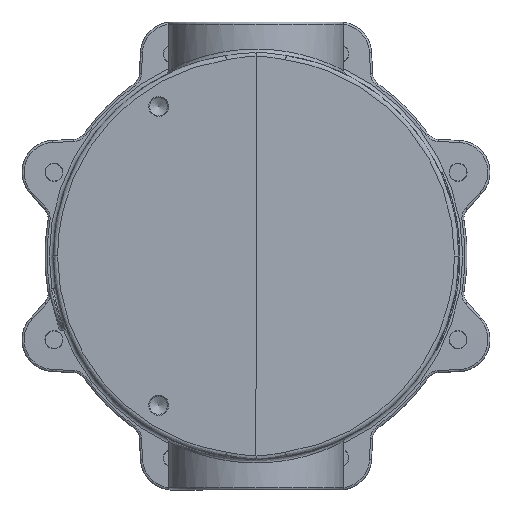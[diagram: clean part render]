
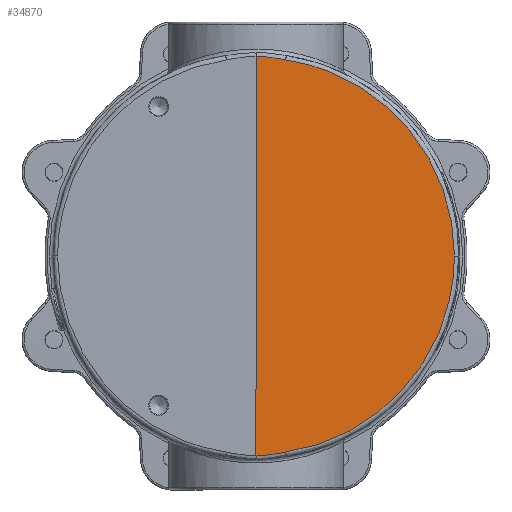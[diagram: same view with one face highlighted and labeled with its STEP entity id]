
A CAD part, front view. The second image highlights one B-rep face of the part: STEP entity #34870.
In plain terms, the highlighted planar face has unit normal (0.018, -1, 0).
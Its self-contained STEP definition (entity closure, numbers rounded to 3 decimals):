
#64=PLANE('',#37277);
#1166=(
BOUNDED_CURVE()
B_SPLINE_CURVE(3,(#50473,#50474,#50475,#50476,#50477,#50478,#50479,#50480,
#50481,#50482,#50483,#50484,#50485,#50486,#50487,#50488,#50489,#50490),
 .UNSPECIFIED.,.F.,.F.)
B_SPLINE_CURVE_WITH_KNOTS((4,2,2,2,2,2,2,2,4),(4.862,5.04,
5.217,5.395,5.573,5.75,5.928,
6.106,6.283),.UNSPECIFIED.)
CURVE()
GEOMETRIC_REPRESENTATION_ITEM()
RATIONAL_B_SPLINE_CURVE((1.,1.,1.,1.,1.,1.,1.,1.,1.,1.,1.,1.,1.,1.,1.,1.,
1.,1.))
REPRESENTATION_ITEM('')
);
#1169=(
BOUNDED_CURVE()
B_SPLINE_CURVE(3,(#58160,#58161,#58162,#58163,#58164,#58165,#58166,#58167,
#58168,#58169,#58170,#58171,#58172,#58173,#58174,#58175,#58176,#58177),
 .UNSPECIFIED.,.F.,.F.)
B_SPLINE_CURVE_WITH_KNOTS((4,2,2,2,2,2,2,2,4),(0.,0.178,0.355,
0.533,0.711,0.888,1.066,
1.244,1.421),.UNSPECIFIED.)
CURVE()
GEOMETRIC_REPRESENTATION_ITEM()
RATIONAL_B_SPLINE_CURVE((1.,1.,1.,1.,1.,1.,1.,1.,1.,1.,1.,1.,1.,1.,1.,1.,
1.,1.))
REPRESENTATION_ITEM('')
);
#3745=FACE_OUTER_BOUND('',#5844,.T.);
#5844=EDGE_LOOP('',(#24335,#24336,#24337,#24338,#24339));
#8108=LINE('',#58133,#11009);
#11009=VECTOR('',#41043,39.37);
#14027=B_SPLINE_CURVE_WITH_KNOTS('',3,(#58134,#58135,#58136,#58137,#58138,
#58139,#58140,#58141,#58142,#58143,#58144,#58145,#58146,#58147,#58148,#58149,
#58150,#58151,#58152,#58153,#58154,#58155,#58156,#58157,#58158),
 .UNSPECIFIED.,.F.,.F.,(4,3,3,3,3,3,3,3,4),(0.,0.004,
0.004,0.008,0.009,0.009,
0.013,0.013,0.018),.UNSPECIFIED.);
#14028=B_SPLINE_CURVE_WITH_KNOTS('',3,(#58178,#58179,#58180,#58181,#58182,
#58183,#58184,#58185,#58186,#58187,#58188,#58189,#58190,#58191,#58192,#58193,
#58194,#58195,#58196,#58197,#58198,#58199,#58200,#58201,#58202),
 .UNSPECIFIED.,.F.,.F.,(4,3,3,3,3,3,3,3,4),(0.,0.004,0.004,
0.009,0.009,0.013,0.013,
0.013,0.018),.UNSPECIFIED.);
#14526=VERTEX_POINT('',#50470);
#14527=VERTEX_POINT('',#50472);
#15080=VERTEX_POINT('',#58131);
#15081=VERTEX_POINT('',#58132);
#15082=VERTEX_POINT('',#58159);
#18059=EDGE_CURVE('',#14527,#14526,#1166,.T.);
#18696=EDGE_CURVE('',#15080,#15081,#8108,.T.);
#18697=EDGE_CURVE('',#15081,#14527,#14027,.T.);
#18698=EDGE_CURVE('',#14526,#15082,#1169,.T.);
#18699=EDGE_CURVE('',#15082,#15080,#14028,.T.);
#24335=ORIENTED_EDGE('',*,*,#18696,.T.);
#24336=ORIENTED_EDGE('',*,*,#18697,.T.);
#24337=ORIENTED_EDGE('',*,*,#18059,.T.);
#24338=ORIENTED_EDGE('',*,*,#18698,.T.);
#24339=ORIENTED_EDGE('',*,*,#18699,.T.);
#34870=ADVANCED_FACE('',(#3745),#64,.T.);
#37277=AXIS2_PLACEMENT_3D('',#58130,#41041,#41042);
#41041=DIRECTION('center_axis',(0.017,-1.,0.));
#41042=DIRECTION('ref_axis',(1.,0.017,0.));
#41043=DIRECTION('',(0.,0.,-1.));
#50470=CARTESIAN_POINT('',(4.652,0.081,0.));
#50472=CARTESIAN_POINT('',(0.695,0.012,-4.598));
#50473=CARTESIAN_POINT('Ctrl Pts',(0.695,0.012,
-4.598));
#50474=CARTESIAN_POINT('Ctrl Pts',(0.967,0.017,
-4.557));
#50475=CARTESIAN_POINT('Ctrl Pts',(1.236,0.022,-4.492));
#50476=CARTESIAN_POINT('Ctrl Pts',(1.757,0.031,
-4.315));
#50477=CARTESIAN_POINT('Ctrl Pts',(2.01,0.035,
-4.203));
#50478=CARTESIAN_POINT('Ctrl Pts',(2.492,0.043,
-3.937));
#50479=CARTESIAN_POINT('Ctrl Pts',(2.721,0.047,
-3.782));
#50480=CARTESIAN_POINT('Ctrl Pts',(3.148,0.055,
-3.435));
#50481=CARTESIAN_POINT('Ctrl Pts',(3.347,0.058,
-3.242));
#50482=CARTESIAN_POINT('Ctrl Pts',(3.706,0.065,
-2.824));
#50483=CARTESIAN_POINT('Ctrl Pts',(3.867,0.067,-2.6));
#50484=CARTESIAN_POINT('Ctrl Pts',(4.147,0.072,
-2.125));
#50485=CARTESIAN_POINT('Ctrl Pts',(4.266,0.074,
-1.876));
#50486=CARTESIAN_POINT('Ctrl Pts',(4.457,0.078,
-1.359));
#50487=CARTESIAN_POINT('Ctrl Pts',(4.53,0.079,
-1.093));
#50488=CARTESIAN_POINT('Ctrl Pts',(4.627,0.081,
-0.551));
#50489=CARTESIAN_POINT('Ctrl Pts',(4.652,0.081,-0.275));
#50490=CARTESIAN_POINT('Ctrl Pts',(4.652,0.081,
0.));
#58130=CARTESIAN_POINT('Origin',(0.,0.,
4.75));
#58131=CARTESIAN_POINT('',(0.,0.,4.685));
#58132=CARTESIAN_POINT('',(0.,0.,-4.685));
#58133=CARTESIAN_POINT('',(0.,0.,4.75));
#58134=CARTESIAN_POINT('Ctrl Pts',(0.,0.,
-4.685));
#58135=CARTESIAN_POINT('Ctrl Pts',(0.057,0.001,
-4.686));
#58136=CARTESIAN_POINT('Ctrl Pts',(0.114,0.002,
-4.684));
#58137=CARTESIAN_POINT('Ctrl Pts',(0.171,0.003,
-4.679));
#58138=CARTESIAN_POINT('Ctrl Pts',(0.172,0.003,
-4.679));
#58139=CARTESIAN_POINT('Ctrl Pts',(0.174,0.003,-4.679));
#58140=CARTESIAN_POINT('Ctrl Pts',(0.175,0.003,
-4.679));
#58141=CARTESIAN_POINT('Ctrl Pts',(0.224,0.004,
-4.674));
#58142=CARTESIAN_POINT('Ctrl Pts',(0.272,0.005,
-4.668));
#58143=CARTESIAN_POINT('Ctrl Pts',(0.32,0.006,
-4.661));
#58144=CARTESIAN_POINT('Ctrl Pts',(0.329,0.006,
-4.66));
#58145=CARTESIAN_POINT('Ctrl Pts',(0.337,0.006,
-4.659));
#58146=CARTESIAN_POINT('Ctrl Pts',(0.346,0.006,
-4.658));
#58147=CARTESIAN_POINT('Ctrl Pts',(0.347,0.006,
-4.657));
#58148=CARTESIAN_POINT('Ctrl Pts',(0.348,0.006,
-4.657));
#58149=CARTESIAN_POINT('Ctrl Pts',(0.349,0.006,
-4.657));
#58150=CARTESIAN_POINT('Ctrl Pts',(0.406,0.007,
-4.648));
#58151=CARTESIAN_POINT('Ctrl Pts',(0.463,0.008,
-4.638));
#58152=CARTESIAN_POINT('Ctrl Pts',(0.52,0.009,
-4.628));
#58153=CARTESIAN_POINT('Ctrl Pts',(0.521,0.009,
-4.628));
#58154=CARTESIAN_POINT('Ctrl Pts',(0.521,0.009,
-4.628));
#58155=CARTESIAN_POINT('Ctrl Pts',(0.522,0.009,
-4.627));
#58156=CARTESIAN_POINT('Ctrl Pts',(0.579,0.01,
-4.617));
#58157=CARTESIAN_POINT('Ctrl Pts',(0.637,0.011,
-4.607));
#58158=CARTESIAN_POINT('Ctrl Pts',(0.695,0.012,
-4.598));
#58159=CARTESIAN_POINT('',(0.695,0.012,4.598));
#58160=CARTESIAN_POINT('Ctrl Pts',(4.652,0.081,
0.));
#58161=CARTESIAN_POINT('Ctrl Pts',(4.652,0.081,0.275));
#58162=CARTESIAN_POINT('Ctrl Pts',(4.627,0.081,
0.551));
#58163=CARTESIAN_POINT('Ctrl Pts',(4.53,0.079,
1.093));
#58164=CARTESIAN_POINT('Ctrl Pts',(4.457,0.078,
1.359));
#58165=CARTESIAN_POINT('Ctrl Pts',(4.266,0.074,
1.876));
#58166=CARTESIAN_POINT('Ctrl Pts',(4.147,0.072,
2.125));
#58167=CARTESIAN_POINT('Ctrl Pts',(3.867,0.067,
2.6));
#58168=CARTESIAN_POINT('Ctrl Pts',(3.706,0.065,
2.824));
#58169=CARTESIAN_POINT('Ctrl Pts',(3.347,0.058,
3.242));
#58170=CARTESIAN_POINT('Ctrl Pts',(3.148,0.055,
3.435));
#58171=CARTESIAN_POINT('Ctrl Pts',(2.721,0.047,
3.782));
#58172=CARTESIAN_POINT('Ctrl Pts',(2.492,0.043,3.937));
#58173=CARTESIAN_POINT('Ctrl Pts',(2.01,0.035,4.203));
#58174=CARTESIAN_POINT('Ctrl Pts',(1.757,0.031,
4.315));
#58175=CARTESIAN_POINT('Ctrl Pts',(1.236,0.022,
4.492));
#58176=CARTESIAN_POINT('Ctrl Pts',(0.967,0.017,
4.557));
#58177=CARTESIAN_POINT('Ctrl Pts',(0.695,0.012,
4.598));
#58178=CARTESIAN_POINT('Ctrl Pts',(0.695,0.012,
4.598));
#58179=CARTESIAN_POINT('Ctrl Pts',(0.637,0.011,
4.607));
#58180=CARTESIAN_POINT('Ctrl Pts',(0.579,0.01,
4.617));
#58181=CARTESIAN_POINT('Ctrl Pts',(0.522,0.009,
4.627));
#58182=CARTESIAN_POINT('Ctrl Pts',(0.521,0.009,
4.628));
#58183=CARTESIAN_POINT('Ctrl Pts',(0.521,0.009,
4.628));
#58184=CARTESIAN_POINT('Ctrl Pts',(0.52,0.009,
4.628));
#58185=CARTESIAN_POINT('Ctrl Pts',(0.463,0.008,
4.638));
#58186=CARTESIAN_POINT('Ctrl Pts',(0.406,0.007,
4.648));
#58187=CARTESIAN_POINT('Ctrl Pts',(0.349,0.006,
4.657));
#58188=CARTESIAN_POINT('Ctrl Pts',(0.348,0.006,
4.657));
#58189=CARTESIAN_POINT('Ctrl Pts',(0.347,0.006,
4.657));
#58190=CARTESIAN_POINT('Ctrl Pts',(0.346,0.006,
4.658));
#58191=CARTESIAN_POINT('Ctrl Pts',(0.298,0.005,
4.665));
#58192=CARTESIAN_POINT('Ctrl Pts',(0.249,0.004,
4.671));
#58193=CARTESIAN_POINT('Ctrl Pts',(0.201,0.004,
4.676));
#58194=CARTESIAN_POINT('Ctrl Pts',(0.192,0.003,
4.677));
#58195=CARTESIAN_POINT('Ctrl Pts',(0.184,0.003,
4.678));
#58196=CARTESIAN_POINT('Ctrl Pts',(0.175,0.003,
4.679));
#58197=CARTESIAN_POINT('Ctrl Pts',(0.174,0.003,
4.679));
#58198=CARTESIAN_POINT('Ctrl Pts',(0.172,0.003,
4.679));
#58199=CARTESIAN_POINT('Ctrl Pts',(0.171,0.003,
4.679));
#58200=CARTESIAN_POINT('Ctrl Pts',(0.114,0.002,
4.684));
#58201=CARTESIAN_POINT('Ctrl Pts',(0.057,0.001,
4.686));
#58202=CARTESIAN_POINT('Ctrl Pts',(0.,0.,
4.685));
